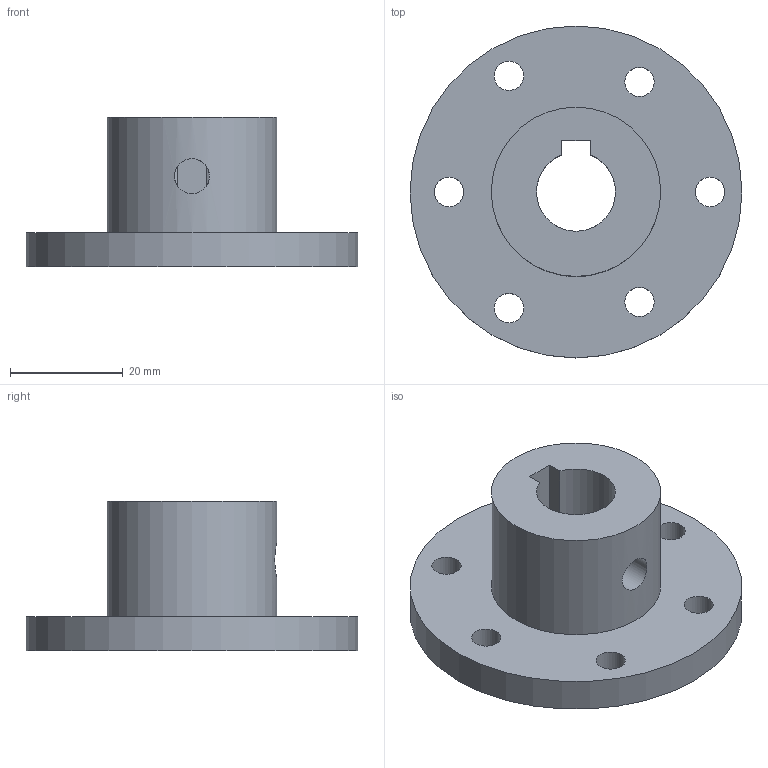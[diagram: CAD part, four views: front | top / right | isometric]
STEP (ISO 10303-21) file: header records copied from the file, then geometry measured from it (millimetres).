
FILE_DESCRIPTION(/* description */ (''),/* implementation_level */ '2;1');
FILE_NAME(/* name */ '14mm_keyway_flange_hub v3.step',/* time_stamp */ '2026-06-03T23:45:58+01:00',/* author */ (''),/* organization */ (''),/* preprocessor_version */ 'ST-DEVELOPER v20.1',/* originating_system */ 'Autodesk Translation Framework v15.8.0.0',/* authorisation */ '');
FILE_SCHEMA (('AUTOMOTIVE_DESIGN { 1 0 10303 214 3 1 1 }'));
Length unit declared in the file: millimetre
Products named in the file (1): 14mm_keyway_flange_hub
Bounding box: 58.8 x 58.8 x 26.4 mm (x, y, z)
Volume: 25342.6 mm3; surface area: 9856.5 mm2
Topology: 1 solids, 1 shells, 16 faces, 42 edges, 29 vertices
Faces by surface type: cylinder 10, plane 6
Full cylindrical faces by diameter (mm): 5.2 x6, 6.2 x1, 30 x1, 58.8 x1
Entity records: 622 total; most frequent: CARTESIAN_POINT 158, DIRECTION 89, ORIENTED_EDGE 84, EDGE_CURVE 42, AXIS2_PLACEMENT_3D 35, EDGE_LOOP 33, VERTEX_POINT 29, LINE 19
